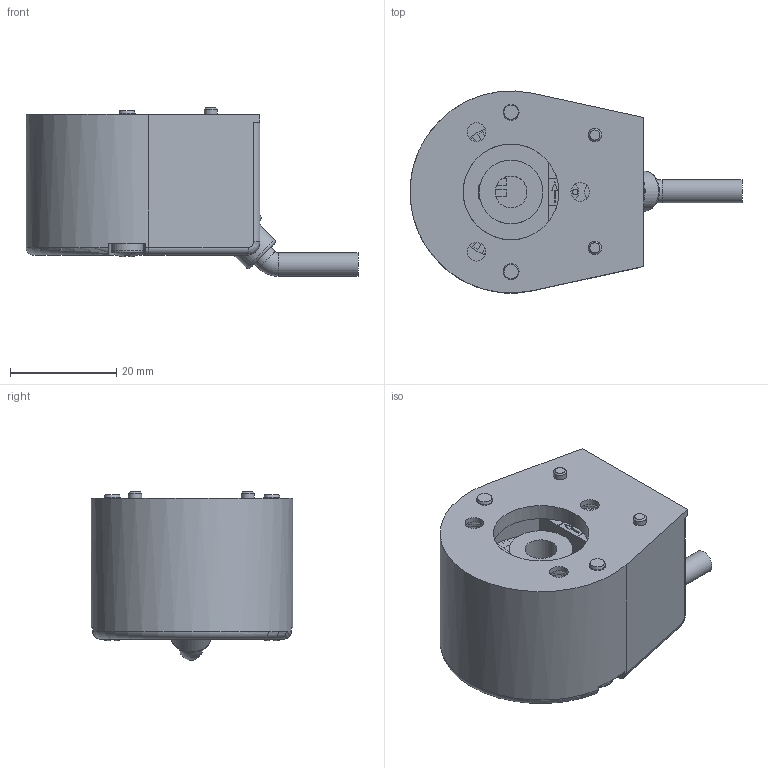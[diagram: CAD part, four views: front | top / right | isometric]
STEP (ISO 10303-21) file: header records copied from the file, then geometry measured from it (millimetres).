
FILE_DESCRIPTION( ( 'Unknown' ), '1' );
FILE_NAME( 'X:/I - Italia/UT - Ufficio Tecnico/Documenti Tecnico/Schede prodotti/InDesign/Assiemi SolidEdge per cataloghi/STEP ASSIEMI/EH17M.stp', 'Unknown', ( 'Unknown' ), ( 'Unknown' ), 'PSStep 17.0.49', 'Unknown', ' ' );
FILE_SCHEMA( ( 'AUTOMOTIVE_DESIGN { 1 0 10303 214 1 1 1 1 }' ) );
Length unit declared in the file: millimetre
Products named in the file (2): 23300031 - UNI 7687 M3x25 TC+
Bounding box: 62.43 x 37.96 x 31.7 mm (x, y, z)
Volume: 15606.2 mm3; surface area: 18965 mm2
Topology: 2 solids, 18 shells, 1389 faces, 3559 edges, 2347 vertices
Faces by surface type: plane 943, cylinder 363, torus 50, cone 25, bspline 5, sphere 3
Full cylindrical faces by diameter (mm): 0.8 x8, 1 x16, 1.016 x15, 1.194 x2, 1.25 x8, 2.39 x2, 2.423 x2, 2.438 x1, 2.5 x5, 2.7 x2, 2.769 x1, 3 x4, 3.2 x2, 3.5 x3, 3.556 x1, 3.81 x1, 4.4 x3, 5 x1, 5.35 x1, 6 x3, 6.3 x1, 6.5 x5, 7 x1, 7.4 x1, 7.5 x2, 10 x2, 12 x1, 18 x1, 25.7 x1
Entity records: 52500 total; most frequent: CARTESIAN_POINT 7993, DIRECTION 6833, ORIENTED_EDGE 6632, EDGE_CURVE 3316, LINE 2361, VECTOR 2361, VERTEX_POINT 2271, AXIS2_PLACEMENT_3D 2236
